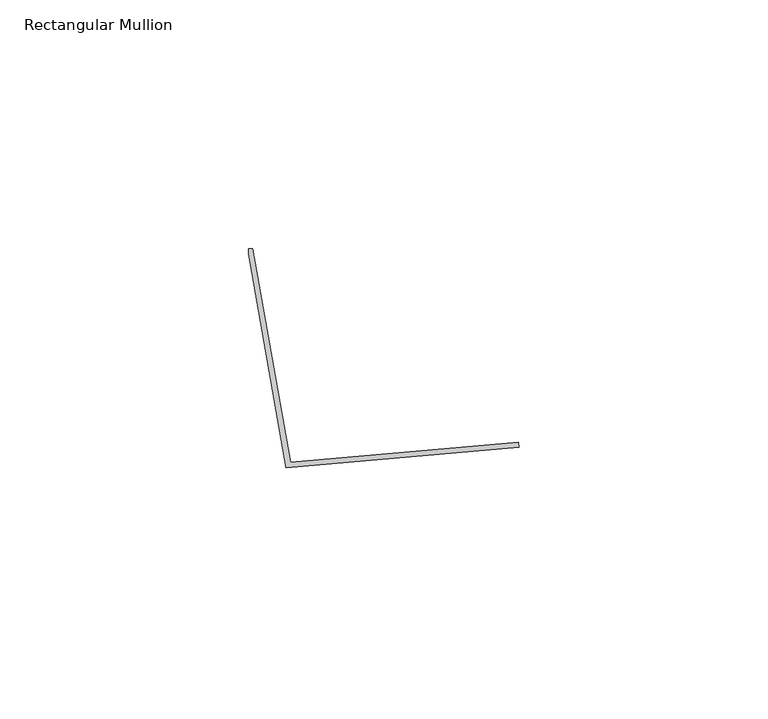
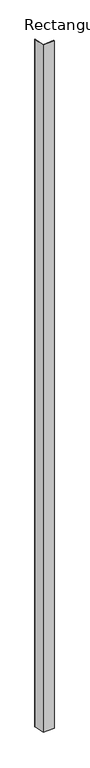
"""IFC4 building model written with IfcOpenShell, lengths in millimetres: member geometry, Rectangular Mullion : CD_NINELINE_Batten Start."""

from ifc_helpers import new_model, si_unit, frame, origin, place, context, project, spatial, polyline, outline, extrude, source, transform, mapped, element, save


def rectangular_mullion_365e98fb(model_context):
    return source(origin(), model_context, "Body", "SweptSolid", [
        extrude(outline(polyline([(-54.4029206, -0.9999629), (-54.4029206, 3.78e-05), (-53.5638148, 3.78e-05), (-45.9954846, -42.9239479), (-0.0871484, -38.9078303), (0.0, -39.9040256), (-46.821181, -44.0), (-54.4029206, -0.9999629)])), frame((0.0, 0.0, -2942.0), z_axis=(0.0, 0.0, 1.0), x_axis=(1.0, 0.0, 0.0)), (0.0, 0.0, 1.0), 2942.0),
    ])


if __name__ == "__main__":
    model = new_model("IFC4")
    model_context = context("Model", 3, world=origin())
    ifc_project = project(units=[si_unit("LENGTHUNIT", "METRE", prefix="MILLI")], contexts=[model_context])
    site = spatial("IfcSite", under=ifc_project)
    building = spatial("IfcBuilding", under=site)
    placement = place(None, origin())
    rectangular_mullion_shape = rectangular_mullion_365e98fb(model_context)
    element("IfcMember", 1, ObjectType="Rectangular Mullion : CD_NINELINE_Batten Start", at=placement, inside=building, context=model_context, shape_type="MappedRepresentation", body=[
        mapped(rectangular_mullion_shape, transform((0.0, 0.0, 0.0), x_axis=(1.0, 0.0, 0.0), y_axis=(0.0, 1.0, 0.0), z_axis=(0.0, 0.0, 1.0))),
    ])
    save(model, "model.ifc")
